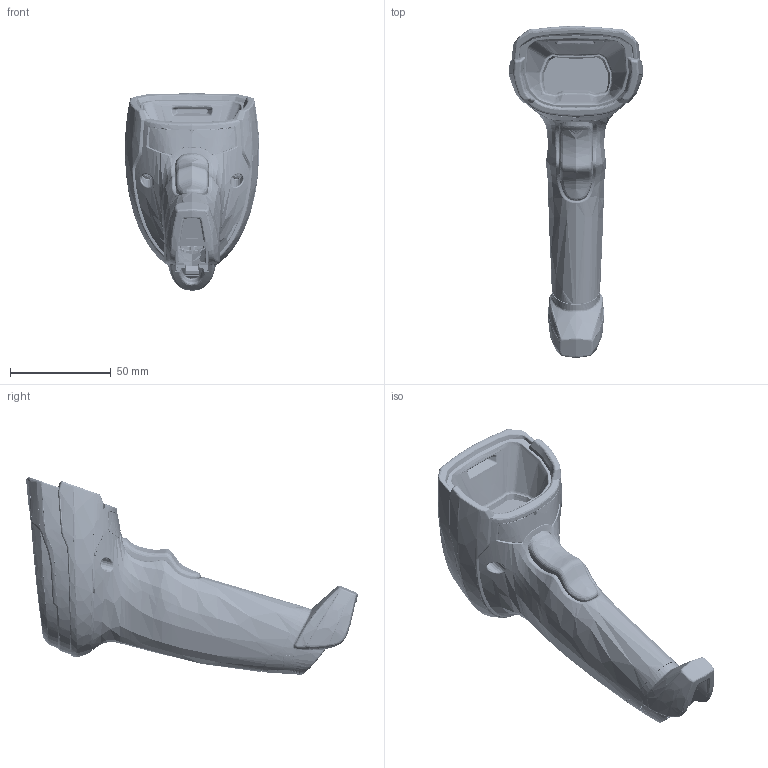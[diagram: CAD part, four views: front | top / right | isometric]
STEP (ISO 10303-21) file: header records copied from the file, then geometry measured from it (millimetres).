
FILE_DESCRIPTION((''),'2;1');
FILE_NAME('DS8108SW','2019-04-15T09:21:22',('DHFW78'),('Zebra Technologies Corp.'),'CREO PARAMETRIC BY PTC INC, 2017260','CREO PARAMETRIC BY PTC INC, 2017260','');
FILE_SCHEMA(('CONFIG_CONTROL_DESIGN'));
Products named in the file (1): DS8108SW
Bounding box: 66.6 x 164.63 x 97.98 mm (x, y, z)
Volume: 60015.1 mm3; surface area: 104938.3 mm2
Topology: 3 solids, 8 shells, 9884 faces, 24264 edges, 14221 vertices
Faces by surface type: bspline 5426, cylinder 2006, plane 1434, torus 403, extrusion 289, sphere 247, cone 79
Entity records: 796835 total; most frequent: CARTESIAN_POINT 619022, ORIENTED_EDGE 48090, EDGE_CURVE 24048, DIRECTION 19133, B_SPLINE_CURVE_WITH_KNOTS 16592, VERTEX_POINT 14222, EDGE_LOOP 9984, FACE_OUTER_BOUND 9888
